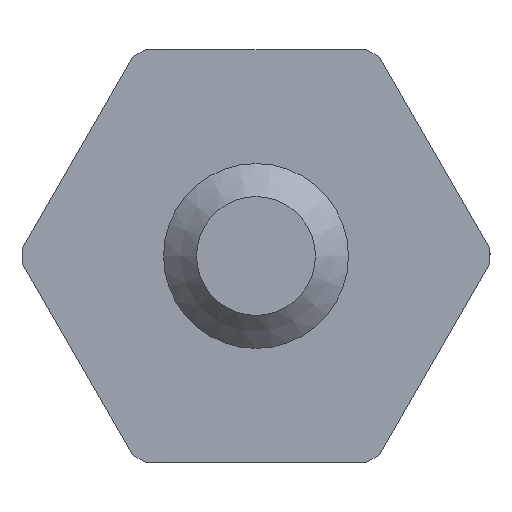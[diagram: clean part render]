
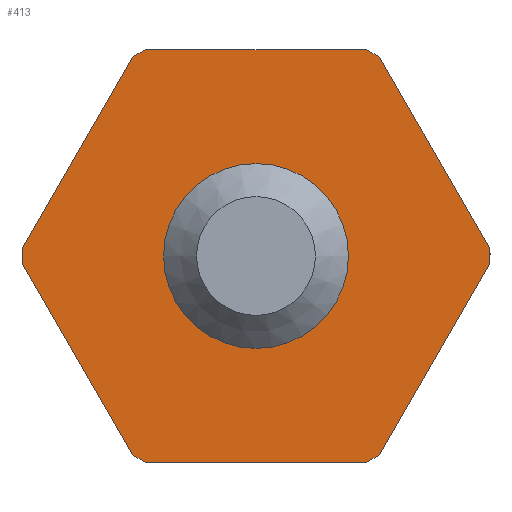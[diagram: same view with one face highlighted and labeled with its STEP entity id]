
A CAD part, left-side view. The second image highlights one B-rep face of the part: STEP entity #413.
In plain terms, the highlighted planar face has unit normal (-1, 0, 0).
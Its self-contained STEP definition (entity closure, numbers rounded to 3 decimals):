
#29=FACE_BOUND($,#78,.T.);
#30=FACE_BOUND($,#79,.T.);
#78=EDGE_LOOP($,(#303));
#79=EDGE_LOOP($,(#304,#305,#306,#307,#308,#309,#310,#311,#312,#313,#314,
#315));
#116=CIRCLE($,#454,0.991);
#117=CIRCLE($,#455,3.6);
#118=CIRCLE($,#456,3.6);
#119=CIRCLE($,#457,3.6);
#120=CIRCLE($,#458,3.6);
#121=CIRCLE($,#459,3.6);
#122=CIRCLE($,#460,3.6);
#138=LINE($,#657,#162);
#141=LINE($,#663,#165);
#144=LINE($,#669,#168);
#147=LINE($,#675,#171);
#150=LINE($,#681,#174);
#152=LINE($,#689,#176);
#162=VECTOR($,#525,3.394);
#165=VECTOR($,#530,3.394);
#168=VECTOR($,#535,3.394);
#171=VECTOR($,#540,3.394);
#174=VECTOR($,#545,3.394);
#176=VECTOR($,#553,3.394);
#195=VERTEX_POINT($,#654);
#196=VERTEX_POINT($,#656);
#197=VERTEX_POINT($,#660);
#198=VERTEX_POINT($,#662);
#199=VERTEX_POINT($,#666);
#200=VERTEX_POINT($,#668);
#201=VERTEX_POINT($,#672);
#202=VERTEX_POINT($,#674);
#203=VERTEX_POINT($,#678);
#204=VERTEX_POINT($,#680);
#205=VERTEX_POINT($,#684);
#206=VERTEX_POINT($,#686);
#207=VERTEX_POINT($,#688);
#233=EDGE_CURVE($,#196,#195,#138,.T.);
#236=EDGE_CURVE($,#198,#197,#141,.T.);
#239=EDGE_CURVE($,#200,#199,#144,.T.);
#242=EDGE_CURVE($,#202,#201,#147,.T.);
#245=EDGE_CURVE($,#204,#203,#150,.T.);
#247=EDGE_CURVE($,#205,#205,#116,.T.);
#248=EDGE_CURVE($,#195,#206,#117,.T.);
#249=EDGE_CURVE($,#206,#207,#152,.T.);
#250=EDGE_CURVE($,#207,#204,#118,.T.);
#251=EDGE_CURVE($,#203,#202,#119,.T.);
#252=EDGE_CURVE($,#201,#200,#120,.T.);
#253=EDGE_CURVE($,#199,#198,#121,.T.);
#254=EDGE_CURVE($,#197,#196,#122,.T.);
#303=ORIENTED_EDGE($,*,*,#247,.F.);
#304=ORIENTED_EDGE($,*,*,#233,.T.);
#305=ORIENTED_EDGE($,*,*,#248,.T.);
#306=ORIENTED_EDGE($,*,*,#249,.T.);
#307=ORIENTED_EDGE($,*,*,#250,.T.);
#308=ORIENTED_EDGE($,*,*,#245,.T.);
#309=ORIENTED_EDGE($,*,*,#251,.T.);
#310=ORIENTED_EDGE($,*,*,#242,.T.);
#311=ORIENTED_EDGE($,*,*,#252,.T.);
#312=ORIENTED_EDGE($,*,*,#239,.T.);
#313=ORIENTED_EDGE($,*,*,#253,.T.);
#314=ORIENTED_EDGE($,*,*,#236,.T.);
#315=ORIENTED_EDGE($,*,*,#254,.T.);
#370=PLANE($,#453);
#413=ADVANCED_FACE($,(#29,#30),#370,.T.);
#453=AXIS2_PLACEMENT_3D($,#683,#547,#548);
#454=AXIS2_PLACEMENT_3D($,#685,#549,#550);
#455=AXIS2_PLACEMENT_3D($,#687,#551,#552);
#456=AXIS2_PLACEMENT_3D($,#690,#554,#555);
#457=AXIS2_PLACEMENT_3D($,#691,#556,#557);
#458=AXIS2_PLACEMENT_3D($,#692,#558,#559);
#459=AXIS2_PLACEMENT_3D($,#693,#560,#561);
#460=AXIS2_PLACEMENT_3D($,#694,#562,#563);
#525=DIRECTION($,(0.,-1.,0.));
#530=DIRECTION($,(0.,-0.5,-0.866));
#535=DIRECTION($,(0.,0.5,-0.866));
#540=DIRECTION($,(0.,1.,0.));
#545=DIRECTION($,(0.,0.5,0.866));
#547=DIRECTION('center_axis',(-1.,0.,0.));
#548=DIRECTION('ref_axis',(0.,0.866,0.5));
#549=DIRECTION('center_axis',(-1.,0.,0.));
#550=DIRECTION('ref_axis',(0.,0.5,-0.866));
#551=DIRECTION('center_axis',(-1.,0.,0.));
#552=DIRECTION('ref_axis',(0.,0.5,-0.866));
#553=DIRECTION($,(0.,-0.5,0.866));
#554=DIRECTION('center_axis',(-1.,0.,0.));
#555=DIRECTION('ref_axis',(0.,0.5,-0.866));
#556=DIRECTION('center_axis',(-1.,0.,0.));
#557=DIRECTION('ref_axis',(0.,0.5,-0.866));
#558=DIRECTION('center_axis',(-1.,0.,0.));
#559=DIRECTION('ref_axis',(0.,0.5,-0.866));
#560=DIRECTION('center_axis',(-1.,0.,0.));
#561=DIRECTION('ref_axis',(0.,0.5,-0.866));
#562=DIRECTION('center_axis',(-1.,0.,0.));
#563=DIRECTION('ref_axis',(0.,0.5,-0.866));
#654=CARTESIAN_POINT('',(-1.575,-1.697,-3.175));
#656=CARTESIAN_POINT('',(-1.575,1.697,-3.175));
#657=CARTESIAN_POINT($,(-1.575,0.57,-3.175));
#660=CARTESIAN_POINT('',(-1.575,1.901,-3.057));
#662=CARTESIAN_POINT('',(-1.575,3.598,-0.118));
#663=CARTESIAN_POINT($,(-1.575,2.461,-2.088));
#666=CARTESIAN_POINT('',(-1.575,3.598,0.118));
#668=CARTESIAN_POINT('',(-1.575,1.901,3.057));
#669=CARTESIAN_POINT($,(-1.575,3.326,0.59));
#672=CARTESIAN_POINT('',(-1.575,1.697,3.175));
#674=CARTESIAN_POINT('',(-1.575,-1.697,3.175));
#675=CARTESIAN_POINT($,(-1.575,0.578,3.175));
#678=CARTESIAN_POINT('',(-1.575,-1.901,3.057));
#680=CARTESIAN_POINT('',(-1.575,-3.598,0.118));
#681=CARTESIAN_POINT($,(-1.575,-3.034,1.094));
#683=CARTESIAN_POINT('Origin',(-1.575,1.148,-1.988));
#684=CARTESIAN_POINT('',(-1.575,0.495,-0.858));
#685=CARTESIAN_POINT('Origin',(-1.575,0.,0.));
#686=CARTESIAN_POINT('',(-1.575,-1.901,-3.057));
#687=CARTESIAN_POINT('Origin',(-1.575,0.,0.));
#688=CARTESIAN_POINT('',(-1.575,-3.598,-0.118));
#689=CARTESIAN_POINT($,(-1.575,-2.178,-2.578));
#690=CARTESIAN_POINT('Origin',(-1.575,0.,0.));
#691=CARTESIAN_POINT('Origin',(-1.575,0.,0.));
#692=CARTESIAN_POINT('Origin',(-1.575,0.,0.));
#693=CARTESIAN_POINT('Origin',(-1.575,0.,0.));
#694=CARTESIAN_POINT('Origin',(-1.575,0.,0.));
